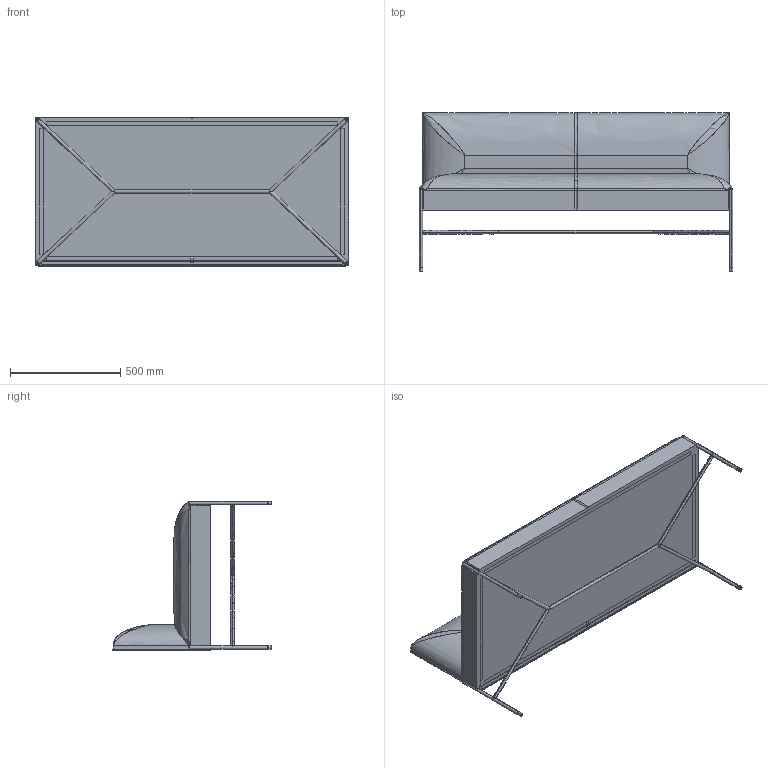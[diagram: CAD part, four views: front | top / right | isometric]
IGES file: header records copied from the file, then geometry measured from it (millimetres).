
Start section: SolidWorks IGES file using analytic representation for surfaces
Global section: file name: W:\design\GORDON GUILLAUMIER\Chill-Out\modelli 3d aggiornati\divano N.IGS; native system: SolidWorks 2010; preprocessor: SolidWorks 2010; author: PC20; date: 140714.192008; units: millimetre
Bounding box: 1420 x 719.5 x 675.5 mm (x, y, z)
Surface area: 8800989.2 mm2 (no closed solid volume)
Topology: 0 solids, 0 shells, 640 faces, 15962 edges, 18778 vertices
Faces by surface type: bspline 364, revolution 276
